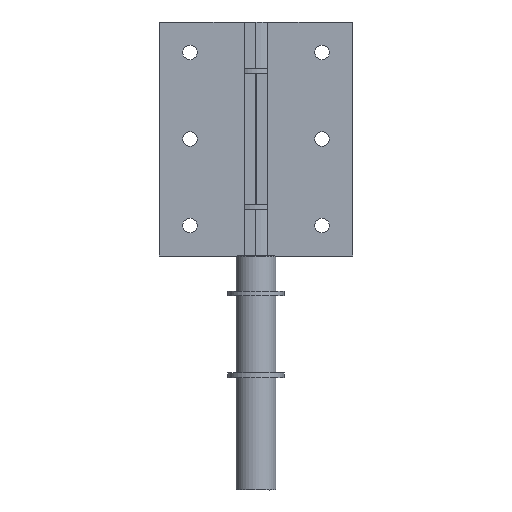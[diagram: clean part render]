
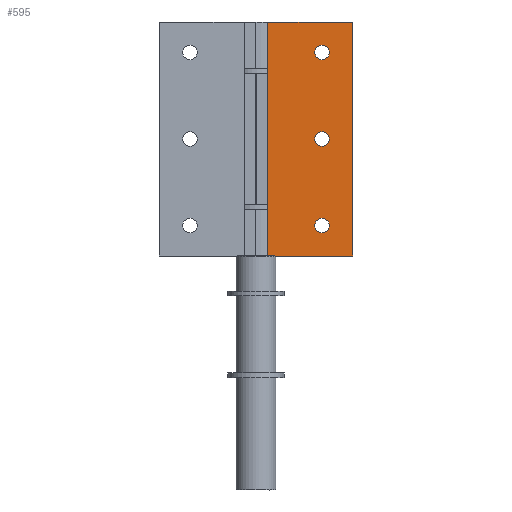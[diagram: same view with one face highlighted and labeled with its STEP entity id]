
A CAD part, front view. The second image highlights one B-rep face of the part: STEP entity #595.
In plain terms, the highlighted planar face has unit normal (0, -1, 0).
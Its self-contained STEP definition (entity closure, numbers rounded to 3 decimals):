
#595 = ADVANCED_FACE( '', ( #1717, #1718, #1719, #1720 ), #1721, .T. );
#842 = EDGE_CURVE( '', #2088, #2089, #2090, .T. );
#1094 = EDGE_CURVE( '', #2409, #2088, #2410, .T. );
#1279 = EDGE_CURVE( '', #2649, #2649, #2650, .T. );
#1344 = EDGE_CURVE( '', #2730, #2730, #2731, .T. );
#1357 = EDGE_CURVE( '', #2747, #2747, #2748, .T. );
#1717 = FACE_OUTER_BOUND( '', #3261, .T. );
#1718 = FACE_BOUND( '', #3262, .T. );
#1719 = FACE_BOUND( '', #3263, .T. );
#1720 = FACE_BOUND( '', #3264, .T. );
#1721 = PLANE( '', #3265 );
#2088 = VERTEX_POINT( '', #3839 );
#2089 = VERTEX_POINT( '', #3840 );
#2090 = LINE( '', #3841, #3842 );
#2409 = VERTEX_POINT( '', #4392 );
#2410 = LINE( '', #4393, #4394 );
#2649 = VERTEX_POINT( '', #4773 );
#2650 = CIRCLE( '', #4774, 3.1 );
#2730 = VERTEX_POINT( '', #4961 );
#2731 = CIRCLE( '', #4962, 3.1 );
#2747 = VERTEX_POINT( '', #4984 );
#2748 = CIRCLE( '', #4985, 3.1 );
#3261 = EDGE_LOOP( '', ( #5476, #5477, #5478, #5479 ) );
#3262 = EDGE_LOOP( '', ( #5480 ) );
#3263 = EDGE_LOOP( '', ( #5481 ) );
#3264 = EDGE_LOOP( '', ( #5482 ) );
#3265 = AXIS2_PLACEMENT_3D( '', #5483, #5484, #5485 );
#3839 = CARTESIAN_POINT( '', ( -5., 0., 0. ) );
#3840 = CARTESIAN_POINT( '', ( -5., 0., 100. ) );
#3841 = CARTESIAN_POINT( '', ( -5., 0., 50. ) );
#3842 = VECTOR( '', #5845, 1000. );
#4392 = CARTESIAN_POINT( '', ( -41.25, 0., 0. ) );
#4393 = CARTESIAN_POINT( '', ( -40.25, 0., 0. ) );
#4394 = VECTOR( '', #6225, 1000. );
#4773 = CARTESIAN_POINT( '', ( -31.35, 0., 13. ) );
#4774 = AXIS2_PLACEMENT_3D( '', #6563, #6564, #6565 );
#4961 = CARTESIAN_POINT( '', ( -31.35, 0., 50. ) );
#4962 = AXIS2_PLACEMENT_3D( '', #6673, #6674, #6675 );
#4984 = CARTESIAN_POINT( '', ( -31.35, 0., 87. ) );
#4985 = AXIS2_PLACEMENT_3D( '', #6703, #6704, #6705 );
#5476 = ORIENTED_EDGE( '', *, *, #7007, .F. );
#5477 = ORIENTED_EDGE( '', *, *, #7008, .F. );
#5478 = ORIENTED_EDGE( '', *, *, #1094, .T. );
#5479 = ORIENTED_EDGE( '', *, *, #842, .T. );
#5480 = ORIENTED_EDGE( '', *, *, #1344, .T. );
#5481 = ORIENTED_EDGE( '', *, *, #1279, .T. );
#5482 = ORIENTED_EDGE( '', *, *, #1357, .T. );
#5483 = CARTESIAN_POINT( '', ( -40.25, 0., 1. ) );
#5484 = DIRECTION( '', ( 0., -1., 0. ) );
#5485 = DIRECTION( '', ( 1., 0., 0. ) );
#5845 = DIRECTION( '', ( 0., 0., 1. ) );
#6225 = DIRECTION( '', ( 1., 0., 0. ) );
#6563 = CARTESIAN_POINT( '', ( -28.25, 0., 13. ) );
#6564 = DIRECTION( '', ( 0., 1., 0. ) );
#6565 = DIRECTION( '', ( -1., 0., 0. ) );
#6673 = CARTESIAN_POINT( '', ( -28.25, 0., 50. ) );
#6674 = DIRECTION( '', ( 0., 1., 0. ) );
#6675 = DIRECTION( '', ( -1., 0., 0. ) );
#6703 = CARTESIAN_POINT( '', ( -28.25, 0., 87. ) );
#6704 = DIRECTION( '', ( 0., 1., 0. ) );
#6705 = DIRECTION( '', ( -1., 0., 0. ) );
#7007 = EDGE_CURVE( '', #7169, #2089, #7170, .T. );
#7008 = EDGE_CURVE( '', #2409, #7169, #7171, .T. );
#7169 = VERTEX_POINT( '', #7336 );
#7170 = LINE( '', #7337, #7338 );
#7171 = LINE( '', #7339, #7340 );
#7336 = CARTESIAN_POINT( '', ( -41.25, 0., 100. ) );
#7337 = CARTESIAN_POINT( '', ( -40.25, 0., 100. ) );
#7338 = VECTOR( '', #7500, 1000. );
#7339 = CARTESIAN_POINT( '', ( -41.25, 0., 1. ) );
#7340 = VECTOR( '', #7501, 1000. );
#7500 = DIRECTION( '', ( 1., 0., 0. ) );
#7501 = DIRECTION( '', ( 0., 0., 1. ) );
